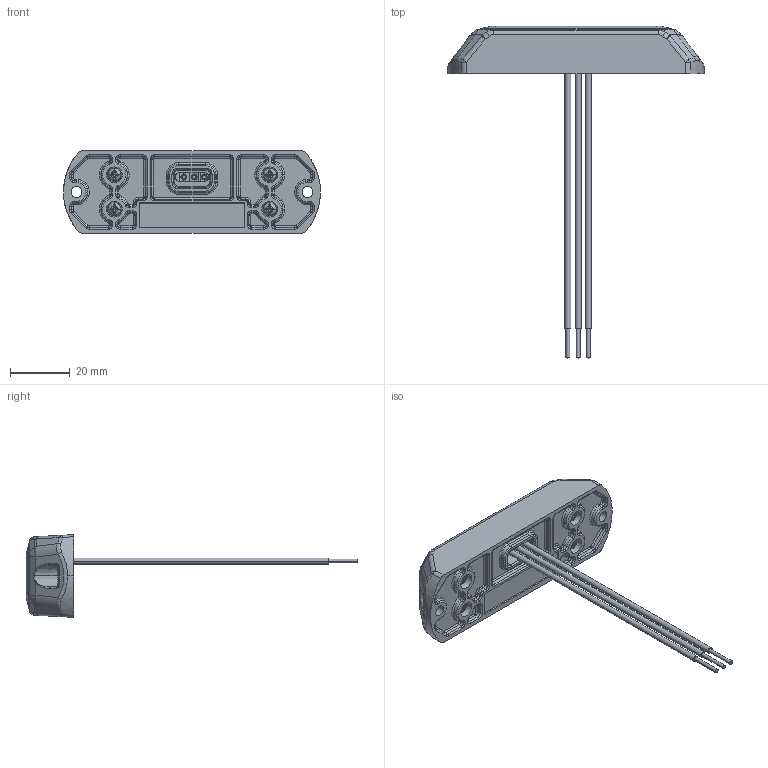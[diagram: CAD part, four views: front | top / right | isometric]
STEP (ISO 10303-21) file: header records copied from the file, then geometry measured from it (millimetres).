
FILE_DESCRIPTION(('CATIA V5 STEP Exchange','CAx-IF Rec.Pracs.--- Model Styling and Organization---1.5--- 2016-08-15','CAx-IF Rec.Pracs.---Supplemental Geometry---1.0---2011-11-01','CAx-IF Rec.Pracs.--- Composite Materials ---1.1---2010-07-15'),'2;1');
FILE_NAME('E:\tmp\ddx\2011221\HELLA_3D_data_BST_3-LED_fix_014-561.stp','2022-01-18T07:45:31+00:00',('none'),('none'),'CATIA Version 5-6 Release 2020 SP3 HF9','CATIA V5 STEP AP214 Edition 3 v2','none');
FILE_SCHEMA(('AUTOMOTIVE_DESIGN { 1 0 10303 214 3 1 1 1 }'));
Products named in the file (1): 10002324913_D10_001
Bounding box: 85.98 x 111.06 x 27.66 mm (x, y, z)
Volume: 888 mm3; surface area: 15974.2 mm2
Topology: 3 solids, 5 shells, 1178 faces, 2928 edges, 1764 vertices
Faces by surface type: cylinder 357, plane 266, cone 204, torus 160, bspline 156, sphere 35
Entity records: 42454 total; most frequent: CARTESIAN_POINT 17845, ORIENTED_EDGE 5790, DIRECTION 3824, EDGE_CURVE 2901, VERTEX_POINT 1764, AXIS2_PLACEMENT_3D 1750, EDGE_LOOP 1225, ADVANCED_FACE 1178
